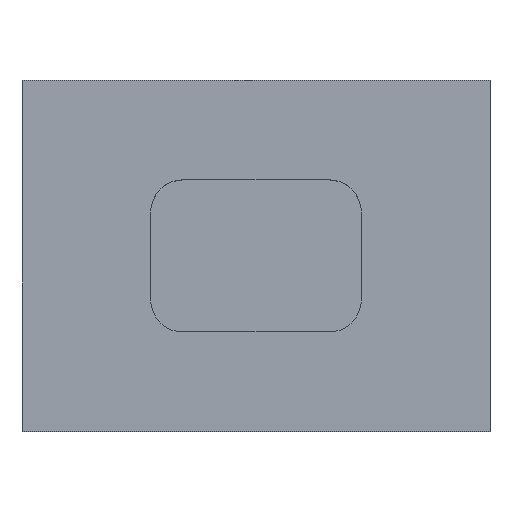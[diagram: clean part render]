
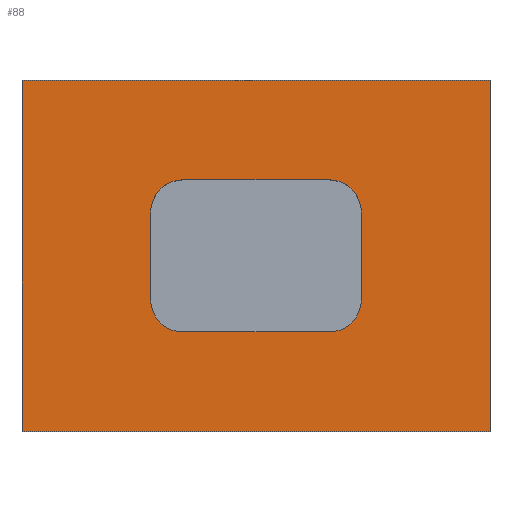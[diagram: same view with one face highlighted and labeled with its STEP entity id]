
A CAD part, top view. The second image highlights one B-rep face of the part: STEP entity #88.
In plain terms, the highlighted planar face has unit normal (0, 0, 1).
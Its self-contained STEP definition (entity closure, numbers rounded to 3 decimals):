
#24 = VERTEX_POINT('',#25);
#25 = CARTESIAN_POINT('',(0.,0.,0.));
#40 = VERTEX_POINT('',#41);
#41 = CARTESIAN_POINT('',(0.,6.,0.));
#47 = EDGE_CURVE('',#24,#40,#48,.T.);
#48 = LINE('',#49,#50);
#49 = CARTESIAN_POINT('',(0.,0.,0.));
#50 = VECTOR('',#51,1.);
#51 = DIRECTION('',(-0.,1.,0.));
#70 = EDGE_CURVE('',#24,#71,#73,.T.);
#71 = VERTEX_POINT('',#72);
#72 = CARTESIAN_POINT('',(8.,0.,0.));
#73 = LINE('',#74,#75);
#74 = CARTESIAN_POINT('',(0.,0.,0.));
#75 = VECTOR('',#76,1.);
#76 = DIRECTION('',(1.,0.,-0.));
#88 = ADVANCED_FACE('',(#89,#107),#177,.T.);
#89 = FACE_BOUND('',#90,.T.);
#90 = EDGE_LOOP('',(#91,#92,#93,#101));
#91 = ORIENTED_EDGE('',*,*,#47,.F.);
#92 = ORIENTED_EDGE('',*,*,#70,.T.);
#93 = ORIENTED_EDGE('',*,*,#94,.T.);
#94 = EDGE_CURVE('',#71,#95,#97,.T.);
#95 = VERTEX_POINT('',#96);
#96 = CARTESIAN_POINT('',(8.,6.,0.));
#97 = LINE('',#98,#99);
#98 = CARTESIAN_POINT('',(8.,0.,0.));
#99 = VECTOR('',#100,1.);
#100 = DIRECTION('',(-0.,1.,0.));
#101 = ORIENTED_EDGE('',*,*,#102,.F.);
#102 = EDGE_CURVE('',#40,#95,#103,.T.);
#103 = LINE('',#104,#105);
#104 = CARTESIAN_POINT('',(0.,6.,0.));
#105 = VECTOR('',#106,1.);
#106 = DIRECTION('',(1.,0.,-0.));
#107 = FACE_BOUND('',#108,.T.);
#108 = EDGE_LOOP('',(#109,#120,#128,#137,#145,#154,#162,#171));
#109 = ORIENTED_EDGE('',*,*,#110,.F.);
#110 = EDGE_CURVE('',#111,#113,#115,.T.);
#111 = VERTEX_POINT('',#112);
#112 = CARTESIAN_POINT('',(2.2,2.25,0.));
#113 = VERTEX_POINT('',#114);
#114 = CARTESIAN_POINT('',(2.75,1.7,0.));
#115 = CIRCLE('',#116,0.55);
#116 = AXIS2_PLACEMENT_3D('',#117,#118,#119);
#117 = CARTESIAN_POINT('',(2.75,2.25,0.));
#118 = DIRECTION('',(0.,0.,1.));
#119 = DIRECTION('',(0.,-1.,0.));
#120 = ORIENTED_EDGE('',*,*,#121,.T.);
#121 = EDGE_CURVE('',#111,#122,#124,.T.);
#122 = VERTEX_POINT('',#123);
#123 = CARTESIAN_POINT('',(2.2,3.75,0.));
#124 = LINE('',#125,#126);
#125 = CARTESIAN_POINT('',(2.2,1.7,0.));
#126 = VECTOR('',#127,1.);
#127 = DIRECTION('',(-0.,1.,0.));
#128 = ORIENTED_EDGE('',*,*,#129,.T.);
#129 = EDGE_CURVE('',#122,#130,#132,.T.);
#130 = VERTEX_POINT('',#131);
#131 = CARTESIAN_POINT('',(2.75,4.3,0.));
#132 = CIRCLE('',#133,0.55);
#133 = AXIS2_PLACEMENT_3D('',#134,#135,#136);
#134 = CARTESIAN_POINT('',(2.75,3.75,0.));
#135 = DIRECTION('',(-0.,-0.,-1.));
#136 = DIRECTION('',(0.,-1.,0.));
#137 = ORIENTED_EDGE('',*,*,#138,.T.);
#138 = EDGE_CURVE('',#130,#139,#141,.T.);
#139 = VERTEX_POINT('',#140);
#140 = CARTESIAN_POINT('',(5.25,4.3,0.));
#141 = LINE('',#142,#143);
#142 = CARTESIAN_POINT('',(2.2,4.3,0.));
#143 = VECTOR('',#144,1.);
#144 = DIRECTION('',(1.,0.,-0.));
#145 = ORIENTED_EDGE('',*,*,#146,.F.);
#146 = EDGE_CURVE('',#147,#139,#149,.T.);
#147 = VERTEX_POINT('',#148);
#148 = CARTESIAN_POINT('',(5.8,3.75,0.));
#149 = CIRCLE('',#150,0.55);
#150 = AXIS2_PLACEMENT_3D('',#151,#152,#153);
#151 = CARTESIAN_POINT('',(5.25,3.75,0.));
#152 = DIRECTION('',(0.,0.,1.));
#153 = DIRECTION('',(0.,-1.,0.));
#154 = ORIENTED_EDGE('',*,*,#155,.F.);
#155 = EDGE_CURVE('',#156,#147,#158,.T.);
#156 = VERTEX_POINT('',#157);
#157 = CARTESIAN_POINT('',(5.8,2.25,0.));
#158 = LINE('',#159,#160);
#159 = CARTESIAN_POINT('',(5.8,1.7,0.));
#160 = VECTOR('',#161,1.);
#161 = DIRECTION('',(-0.,1.,0.));
#162 = ORIENTED_EDGE('',*,*,#163,.T.);
#163 = EDGE_CURVE('',#156,#164,#166,.T.);
#164 = VERTEX_POINT('',#165);
#165 = CARTESIAN_POINT('',(5.25,1.7,0.));
#166 = CIRCLE('',#167,0.55);
#167 = AXIS2_PLACEMENT_3D('',#168,#169,#170);
#168 = CARTESIAN_POINT('',(5.25,2.25,0.));
#169 = DIRECTION('',(-0.,-0.,-1.));
#170 = DIRECTION('',(0.,-1.,0.));
#171 = ORIENTED_EDGE('',*,*,#172,.F.);
#172 = EDGE_CURVE('',#113,#164,#173,.T.);
#173 = LINE('',#174,#175);
#174 = CARTESIAN_POINT('',(2.2,1.7,0.));
#175 = VECTOR('',#176,1.);
#176 = DIRECTION('',(1.,0.,-0.));
#177 = PLANE('',#178);
#178 = AXIS2_PLACEMENT_3D('',#179,#180,#181);
#179 = CARTESIAN_POINT('',(0.,0.,0.));
#180 = DIRECTION('',(0.,0.,1.));
#181 = DIRECTION('',(1.,0.,-0.));
